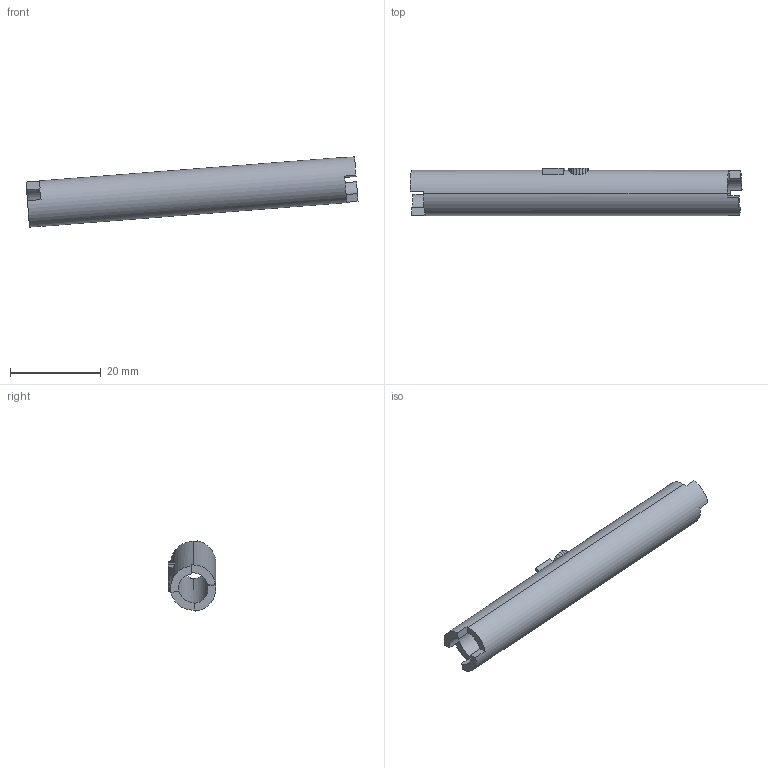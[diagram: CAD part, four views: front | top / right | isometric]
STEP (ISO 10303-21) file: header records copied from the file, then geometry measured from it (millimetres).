
FILE_DESCRIPTION((''),'2;1');
FILE_NAME('0000236846_PRT','2025-11-12T18:35:28',('Wyndorps'),(''),'CREO PARAMETRIC BY PTC INC, 2025010','CREO PARAMETRIC BY PTC INC, 2025010','');
FILE_SCHEMA(('CONFIG_CONTROL_DESIGN'));
Length unit declared in the file: millimetre
Products named in the file (1): 0000236846_PRT
Bounding box: 73.15 x 10.5 x 15.48 mm (x, y, z)
Volume: 3178.2 mm3; surface area: 3798 mm2
Topology: 1 solids, 1 shells, 111 faces, 324 edges, 216 vertices
Faces by surface type: plane 106, cylinder 5
Entity records: 3675 total; most frequent: CARTESIAN_POINT 787, ORIENTED_EDGE 648, DIRECTION 512, EDGE_CURVE 324, VECTOR 224, LINE 224, VERTEX_POINT 216, AXIS2_PLACEMENT_3D 144
